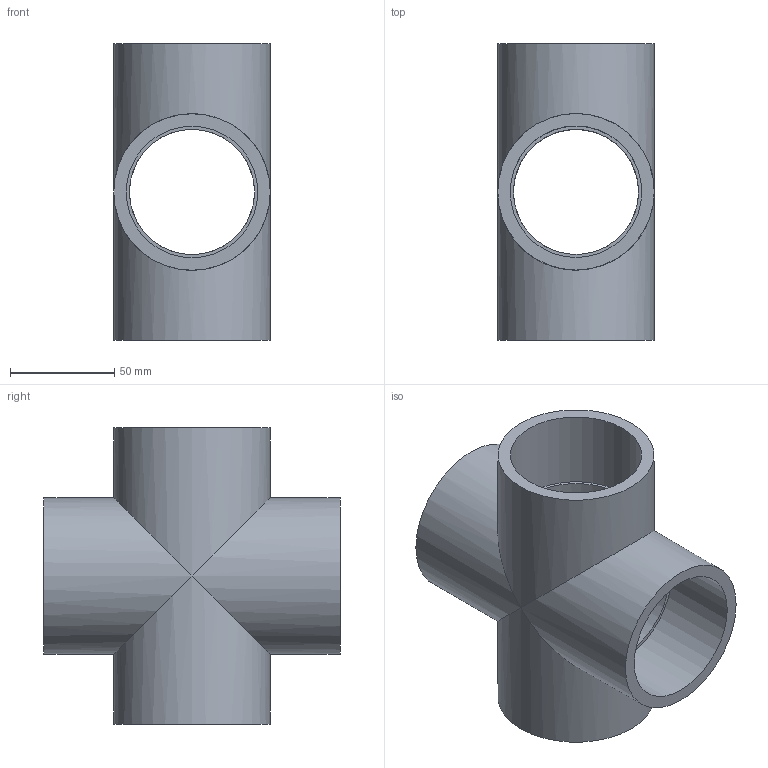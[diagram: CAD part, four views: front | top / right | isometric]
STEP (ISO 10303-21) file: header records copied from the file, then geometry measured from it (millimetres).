
FILE_DESCRIPTION(/* description */ ('Croci a 90° PVC'),/* implementation_level */ '2;1');
FILE_NAME(/* name */ 'C:\Users\POLYPIPE\Desktop\DATASET INVENTOR\LIBRERIA EFFAST\RACCORDI 3DxWEB\RDR\3D_RDRCRD\3D_RDRCRD0630.stp',/* time_stamp */ '2018-01-19T14:17:43+01:00',/* author */ ('POLYPIPE'),/* organization */ ('Polypipe Italia s.r.l.'),/* preprocessor_version */ 'ST-DEVELOPER v16.1',/* originating_system */ 'Autodesk Inventor 2016',/* authorisation */ '');
FILE_SCHEMA (('CONFIG_CONTROL_DESIGN'));
Length unit declared in the file: millimetre
Products named in the file (1): 3D_RDRCRD
Bounding box: 75 x 142 x 142 mm (x, y, z)
Volume: 270381.2 mm3; surface area: 91343 mm2
Topology: 1 solids, 1 shells, 20 faces, 36 edges, 20 vertices
Faces by surface type: cylinder 12, plane 8
Full cylindrical faces by diameter (mm): 60 x4, 63 x4, 75 x4
Entity records: 464 total; most frequent: DIRECTION 90, CARTESIAN_POINT 65, ORIENTED_EDGE 48, AXIS2_PLACEMENT_3D 45, EDGE_LOOP 40, EDGE_CURVE 24, FACE_BOUND 20, FACE_OUTER_BOUND 20
